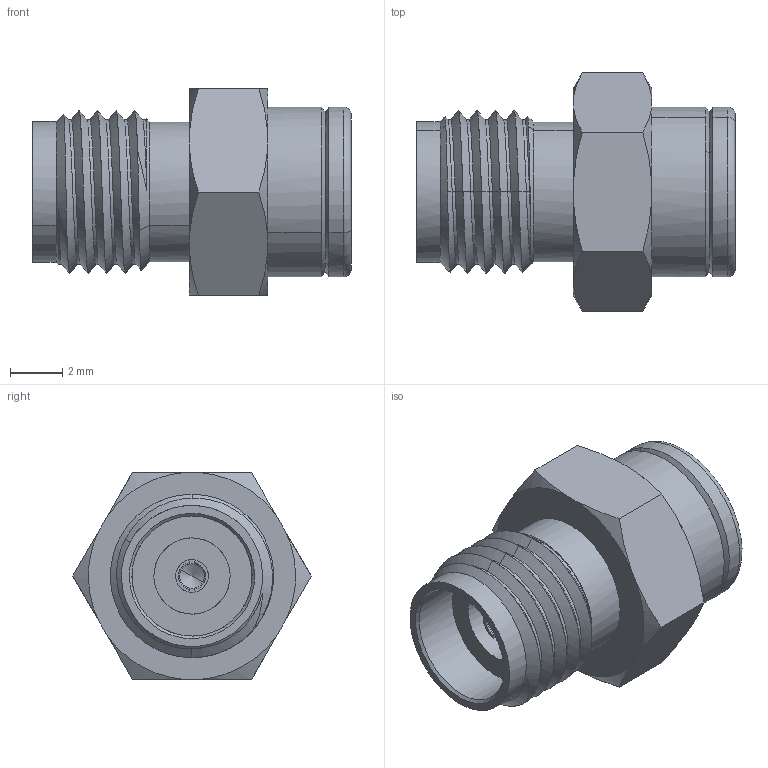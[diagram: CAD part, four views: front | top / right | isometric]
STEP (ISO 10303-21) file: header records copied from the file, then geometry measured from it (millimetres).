
FILE_DESCRIPTION(('CATIA V5 STEP Exchange'),'2;1');
FILE_NAME('D:\Work SZ\CMP 图纸\Termination\2.92mm\017 TP-2.92F-017\TP-2.92F-017(REV.A).stp','2021-02-22T04:08:53+00:00',('none'),('none'),'CATIA Version 5 Release 20 GA (IN-10)','CATIA V5 STEP AP203','none');
FILE_SCHEMA(('CONFIG_CONTROL_DESIGN'));
Length unit declared in the file: millimetre
Products named in the file (1): TP-2.92F-008(REV.A)
Bounding box: 12.2 x 9.12 x 7.9 mm (x, y, z)
Volume: 365.7 mm3; surface area: 462.6 mm2
Topology: 1 solids, 1 shells, 108 faces, 272 edges, 169 vertices
Faces by surface type: bspline 33, cone 25, cylinder 24, plane 20, torus 6
Entity records: 4284 total; most frequent: CARTESIAN_POINT 2199, ORIENTED_EDGE 540, EDGE_CURVE 270, DIRECTION 210, VERTEX_POINT 169, B_SPLINE_CURVE_WITH_KNOTS 158, EDGE_LOOP 113, ADVANCED_FACE 108
